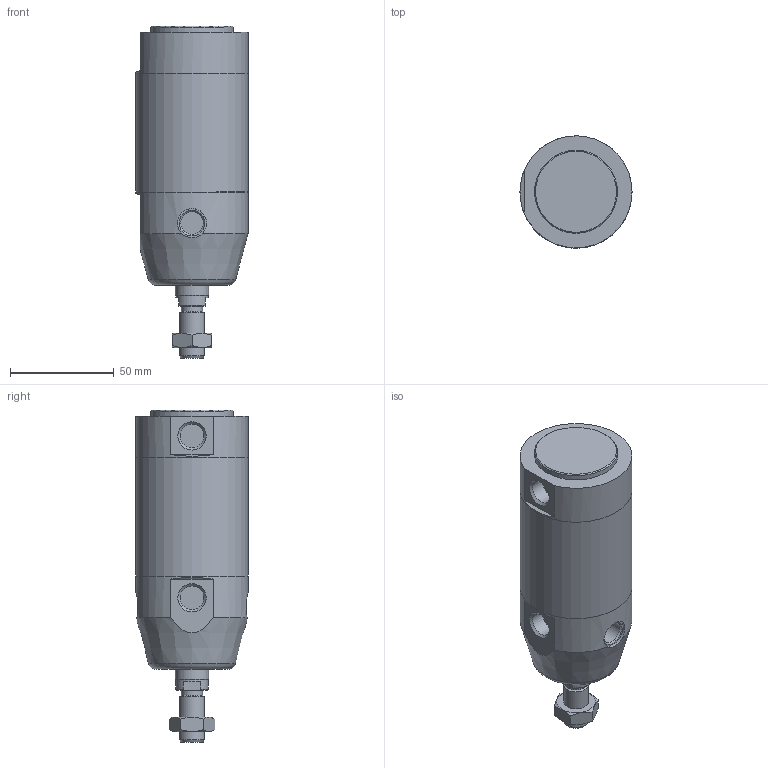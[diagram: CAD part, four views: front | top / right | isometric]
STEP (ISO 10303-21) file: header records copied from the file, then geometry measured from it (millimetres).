
FILE_DESCRIPTION(/* description */ (''),/* implementation_level */ '2;1');
FILE_NAME(/* name */ 'I:\Area Tecnica\Documenti\A-Manieri\_Inventor\12X\12X#E_###_####_#_#\12XAE_050_0015_#_#.stp',/* time_stamp */ '2015-05-08T13:40:04+02:00',/* author */ ('maniean1'),/* organization */ ('Pneumax S.p.A.'),/* preprocessor_version */ 'ST-DEVELOPER v15.2',/* originating_system */ 'Autodesk Inventor 2014',/* authorisation */ '');
FILE_SCHEMA (('AUTOMOTIVE_DESIGN { 1 0 10303 214 3 1 1 }'));
Length unit declared in the file: millimetre
Products named in the file (6): C1250_619-0015; 12X50_622; S12X50_0015; 12X_50_11; 12X50_611; 12XAE_050_0015_#_#
Bounding box: 54 x 54 x 160 mm (x, y, z)
Volume: 246616.1 mm3; surface area: 57238.5 mm2
Topology: 5 solids, 5 shells, 65 faces, 132 edges, 84 vertices
Faces by surface type: plane 33, cylinder 18, cone 13, torus 1
Full cylindrical faces by diameter (mm): 10.2 x1, 10.9 x2, 11.4 x2, 12 x2, 14 x1, 14.1 x2, 15.6 x1, 16 x1, 40 x1, 50 x2, 54 x3
Entity records: 1691 total; most frequent: CARTESIAN_POINT 368, DIRECTION 279, ORIENTED_EDGE 190, AXIS2_PLACEMENT_3D 129, EDGE_LOOP 108, EDGE_CURVE 95, VERTEX_POINT 77, ADVANCED_FACE 65
